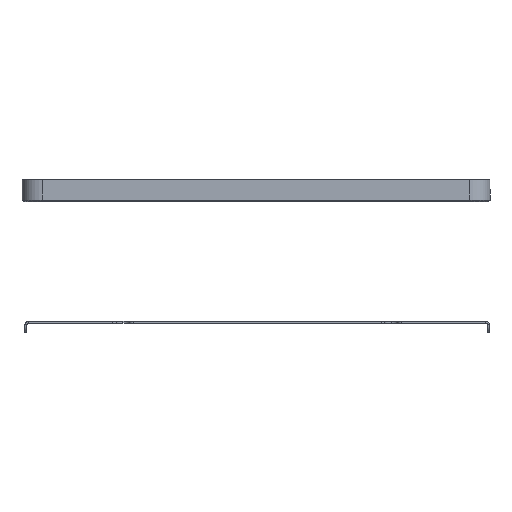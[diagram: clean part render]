
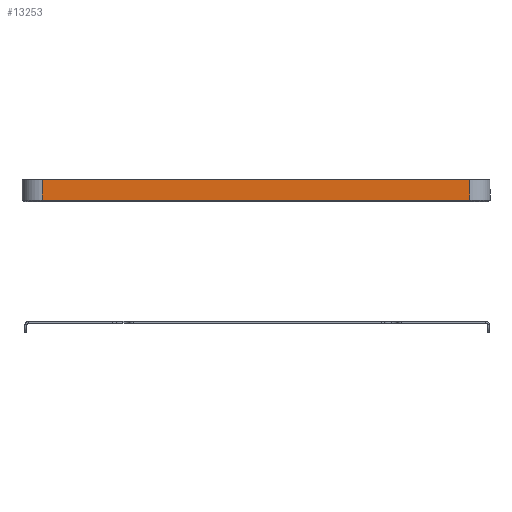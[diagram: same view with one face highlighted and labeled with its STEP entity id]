
A CAD part, left-side view. The second image highlights one B-rep face of the part: STEP entity #13253.
In plain terms, the highlighted planar face has unit normal (-1, 0, 0).
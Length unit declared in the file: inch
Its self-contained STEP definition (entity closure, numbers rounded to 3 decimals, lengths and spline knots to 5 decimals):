
#261 = LINE ( 'NONE', #21679, #11856 ) ;
#1961 = FACE_OUTER_BOUND ( 'NONE', #10264, .T. ) ;
#2164 = VECTOR ( 'NONE', #5969, 39.37008 ) ;
#2747 = CARTESIAN_POINT ( 'NONE',  ( -4.4625, -3.5825, 0.345 ) ) ;
#2880 = LINE ( 'NONE', #12962, #2164 ) ;
#3086 = VERTEX_POINT ( 'NONE', #23081 ) ;
#3633 = CARTESIAN_POINT ( 'NONE',  ( -4.4625, 3.9225, 0. ) ) ;
#3731 = EDGE_CURVE ( 'NONE', #11880, #3086, #26000, .T. ) ;
#4886 = CARTESIAN_POINT ( 'NONE',  ( -4.4625, -3.5825, 0. ) ) ;
#4967 = AXIS2_PLACEMENT_3D ( 'NONE', #18058, #22719, #8845 ) ;
#5296 = ORIENTED_EDGE ( 'NONE', *, *, #21128, .T. ) ;
#5969 = DIRECTION ( 'NONE',  ( 0., 0., 1. ) ) ;
#7431 = EDGE_CURVE ( 'NONE', #11243, #23277, #2880, .T. ) ;
#7597 = CARTESIAN_POINT ( 'NONE',  ( -4.4625, 3.5825, 0.345 ) ) ;
#8413 = DIRECTION ( 'NONE',  ( 0., -1., 0. ) ) ;
#8845 = DIRECTION ( 'NONE',  ( 0., 1., 0. ) ) ;
#9476 = VECTOR ( 'NONE', #8413, 39.37008 ) ;
#10264 = EDGE_LOOP ( 'NONE', ( #25390, #28894, #12050, #5296 ) ) ;
#11243 = VERTEX_POINT ( 'NONE', #4886 ) ;
#11856 = VECTOR ( 'NONE', #24045, 39.37008 ) ;
#11880 = VERTEX_POINT ( 'NONE', #7597 ) ;
#12050 = ORIENTED_EDGE ( 'NONE', *, *, #3731, .T. ) ;
#12962 = CARTESIAN_POINT ( 'NONE',  ( -4.4625, -3.5825, 0.375 ) ) ;
#13253 = ADVANCED_FACE ( 'NONE', ( #1961 ), #13408, .F. ) ;
#13408 = PLANE ( 'NONE',  #4967 ) ;
#18058 = CARTESIAN_POINT ( 'NONE',  ( -4.4625, 3.9225, 0.375 ) ) ;
#19807 = VECTOR ( 'NONE', #24124, 39.37008 ) ;
#21128 = EDGE_CURVE ( 'NONE', #3086, #11243, #23281, .T. ) ;
#21679 = CARTESIAN_POINT ( 'NONE',  ( -4.4625, 3.5825, 0.345 ) ) ;
#22719 = DIRECTION ( 'NONE',  ( 1., 0., 0. ) ) ;
#23081 = CARTESIAN_POINT ( 'NONE',  ( -4.4625, 3.5825, 0. ) ) ;
#23277 = VERTEX_POINT ( 'NONE', #2747 ) ;
#23281 = LINE ( 'NONE', #3633, #9476 ) ;
#24045 = DIRECTION ( 'NONE',  ( 0., 1., 0. ) ) ;
#24124 = DIRECTION ( 'NONE',  ( 0., 0., -1. ) ) ;
#25390 = ORIENTED_EDGE ( 'NONE', *, *, #7431, .T. ) ;
#26000 = LINE ( 'NONE', #28724, #19807 ) ;
#28599 = EDGE_CURVE ( 'NONE', #23277, #11880, #261, .T. ) ;
#28724 = CARTESIAN_POINT ( 'NONE',  ( -4.4625, 3.5825, 0.375 ) ) ;
#28894 = ORIENTED_EDGE ( 'NONE', *, *, #28599, .T. ) ;
